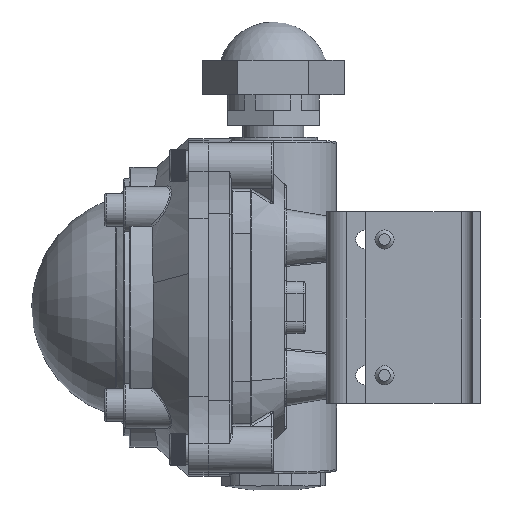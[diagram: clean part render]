
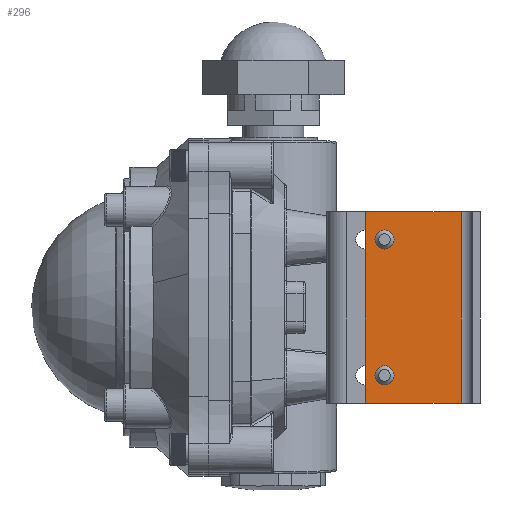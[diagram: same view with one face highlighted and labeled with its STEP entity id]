
A CAD part, left-side view. The second image highlights one B-rep face of the part: STEP entity #296.
In plain terms, the highlighted planar face has unit normal (-1, 0, 0).
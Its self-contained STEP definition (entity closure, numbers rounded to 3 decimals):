
#296=ADVANCED_FACE('',(#3417,#3419,#3421),#3423,.F.);
#3417=FACE_BOUND('',#3418,.T.);
#3418=EDGE_LOOP('',(#50322,#50323,#50324,#50325));
#3419=FACE_BOUND('',#3420,.T.);
#3420=EDGE_LOOP('',(#50326));
#3421=FACE_BOUND('',#3422,.T.);
#3422=EDGE_LOOP('',(#50327));
#3423=PLANE('',#3424);
#3424=AXIS2_PLACEMENT_3D('',#3425,#3426,#3427);
#3425=CARTESIAN_POINT('',(-37.,-34.,-25.));
#3426=DIRECTION('',(1.,0.,0.));
#3427=DIRECTION('',(0.,1.,0.));
#50322=ORIENTED_EDGE('',*,*,#70497,.T.);
#50323=ORIENTED_EDGE('',*,*,#70461,.T.);
#50324=ORIENTED_EDGE('',*,*,#70454,.F.);
#50325=ORIENTED_EDGE('',*,*,#70470,.F.);
#50326=ORIENTED_EDGE('',*,*,#70498,.F.);
#50327=ORIENTED_EDGE('',*,*,#70499,.T.);
#70454=EDGE_CURVE('',#78931,#78933,#78934,.T.);
#70461=EDGE_CURVE('',#78945,#78933,#78946,.T.);
#70470=EDGE_CURVE('',#78958,#78931,#78960,.T.);
#70497=EDGE_CURVE('',#78958,#78945,#79000,.T.);
#70498=EDGE_CURVE('',#79001,#79001,#79002,.F.);
#70499=EDGE_CURVE('',#79003,#79003,#79004,.T.);
#78931=VERTEX_POINT('',#92496);
#78933=VERTEX_POINT('',#92500);
#78934=LINE('',#92501,#92502);
#78945=VERTEX_POINT('',#92529);
#78946=LINE('',#92530,#92531);
#78958=VERTEX_POINT('',#92558);
#78960=LINE('',#92562,#92563);
#79000=LINE('',#92777,#92778);
#79001=VERTEX_POINT('',#92780);
#79002=CIRCLE('',#92781,2.5);
#79003=VERTEX_POINT('',#92785);
#79004=CIRCLE('',#92786,2.5);
#92496=CARTESIAN_POINT('',(-37.,-9.,-25.));
#92500=CARTESIAN_POINT('',(-37.,-9.,25.));
#92501=CARTESIAN_POINT('',(-37.,-9.,-25.));
#92502=VECTOR('',#92503,1.);
#92503=DIRECTION('',(0.,0.,1.));
#92529=CARTESIAN_POINT('',(-37.,-34.,25.));
#92530=CARTESIAN_POINT('',(-37.,-34.,25.));
#92531=VECTOR('',#92532,1.);
#92532=DIRECTION('',(0.,1.,0.));
#92558=CARTESIAN_POINT('',(-37.,-34.,-25.));
#92562=CARTESIAN_POINT('',(-37.,-34.,-25.));
#92563=VECTOR('',#92564,1.);
#92564=DIRECTION('',(0.,1.,0.));
#92777=CARTESIAN_POINT('',(-37.,-34.,-25.));
#92778=VECTOR('',#92779,1.);
#92779=DIRECTION('',(0.,0.,1.));
#92780=CARTESIAN_POINT('',(-37.,-14.,-15.2));
#92781=AXIS2_PLACEMENT_3D('',#92782,#92783,#92784);
#92782=CARTESIAN_POINT('',(-37.,-14.,-17.7));
#92783=DIRECTION('',(1.,0.,0.));
#92784=DIRECTION('',(0.,0.,1.));
#92785=CARTESIAN_POINT('',(-37.,-14.,20.2));
#92786=AXIS2_PLACEMENT_3D('',#92787,#92788,#92789);
#92787=CARTESIAN_POINT('',(-37.,-14.,17.7));
#92788=DIRECTION('',(1.,0.,0.));
#92789=DIRECTION('',(0.,0.,1.));
